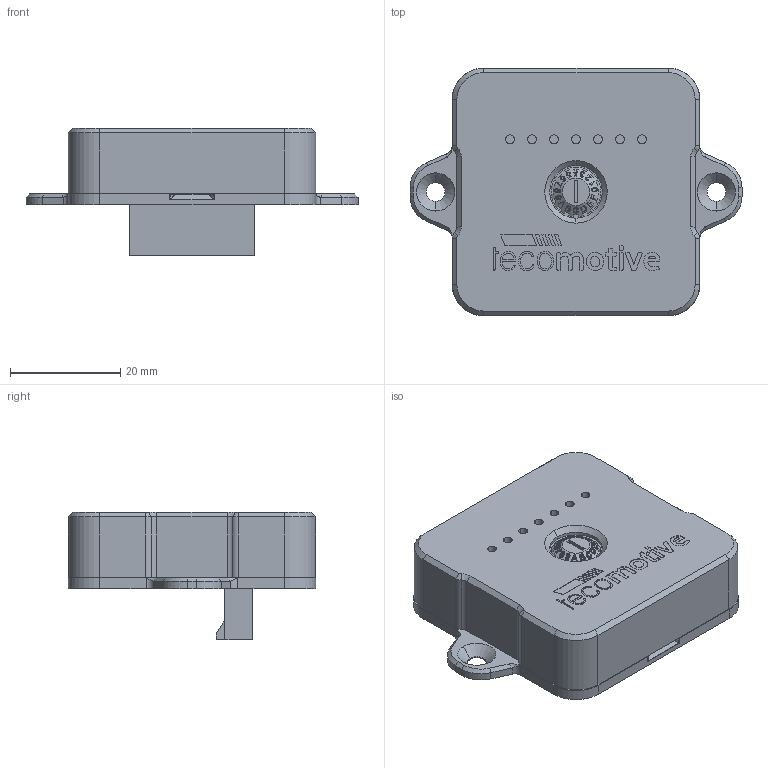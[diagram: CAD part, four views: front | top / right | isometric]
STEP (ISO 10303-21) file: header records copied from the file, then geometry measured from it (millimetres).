
FILE_DESCRIPTION (( 'STEP AP214' ), '1' );
FILE_NAME ('tinyCWA_with_holder.STEP', '2024-01-29T12:56:52', ( '' ), ( '' ), 'STEP 2.0', 'Tecomotive 2024', '' );
FILE_SCHEMA (( 'AUTOMOTIVE_DESIGN' ));
Length unit declared in the file: millimetre
Products named in the file (5): tinyCWA_with_holder; Visor; Case; Holder; Circuit_board
Assembly tree (4 placements, depth 2):
  tinyCWA_with_holder
    Case
    Visor
    Holder
    Circuit_board
Bounding box: 60.3 x 45 x 23.09 mm (x, y, z)
Volume: 17467.3 mm3; surface area: 19921 mm2
Topology: 22 solids, 22 shells, 2255 faces, 5769 edges, 3652 vertices
Faces by surface type: plane 1202, cylinder 554, bspline 317, cone 76, sphere 76, torus 30
Entity records: 77746 total; most frequent: CARTESIAN_POINT 22768, ORIENTED_EDGE 11538, DIRECTION 9821, EDGE_CURVE 5769, VECTOR 3683, LINE 3683, VERTEX_POINT 3652, AXIS2_PLACEMENT_3D 3069
